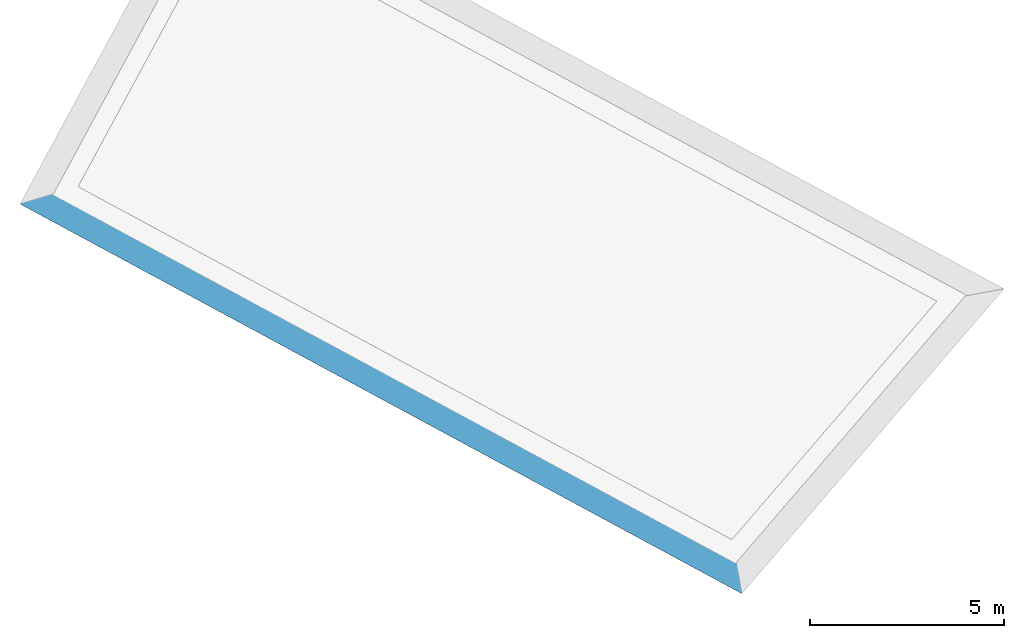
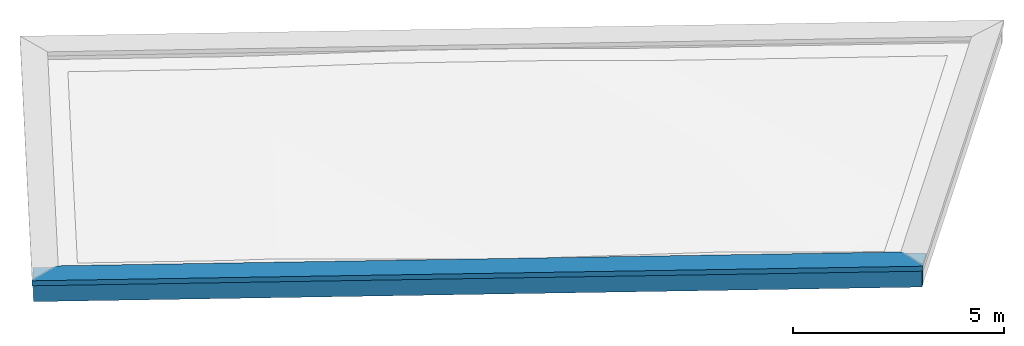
# One storey, part 1 of 5: 1 wall.
"""IFC2X3 building model written with IfcOpenShell, lengths in metres."""

from ifc_helpers import new_model, entity, si_unit, converted_unit, derived_unit, money_unit, direction, frame, origin_with_axes, place, context, subcontext, project, spatial, faceted_brep, material, material_list, type_object, element, save


model = new_model("IFC2X3")

# Units and contexts
model_context = context("Model", 3, precision=1e-05, world=origin_with_axes(), true_north=direction((0.0, 1.0)))
body_context = subcontext(model_context, "Body", "Model", "MODEL_VIEW")
ifc_project = project(units=[si_unit("LENGTHUNIT", "METRE"), si_unit("AREAUNIT", "SQUARE_METRE"), si_unit("VOLUMEUNIT", "CUBIC_METRE"), converted_unit("PLANEANGLEUNIT", "DEGREE", entity("IfcPlaneAngleMeasure", 0.0174532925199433), si_unit("PLANEANGLEUNIT", "RADIAN"), dimensions=[0, 0, 0, 0, 0, 0, 0]), money_unit("EUR"), converted_unit("TIMEUNIT", "Year", entity("IfcTimeMeasure", 31556926.0), si_unit("TIMEUNIT", "SECOND"), dimensions=[0, 0, 1, 0, 0, 0, 0]), si_unit("MASSUNIT", "GRAM", prefix="KILO"), si_unit("THERMODYNAMICTEMPERATUREUNIT", "DEGREE_CELSIUS"), si_unit("LUMINOUSINTENSITYUNIT", "LUMEN"), si_unit("ENERGYUNIT", "JOULE", prefix="MEGA"), derived_unit("THERMALCONDUCTANCEUNIT", [(si_unit("POWERUNIT", "WATT"), 1), (si_unit("LENGTHUNIT", "METRE"), -1), (si_unit("THERMODYNAMICTEMPERATUREUNIT", "KELVIN"), -1)]), derived_unit("SPECIFICHEATCAPACITYUNIT", [(si_unit("ENERGYUNIT", "JOULE"), 1), (si_unit("MASSUNIT", "GRAM", prefix="KILO"), -1), (si_unit("THERMODYNAMICTEMPERATUREUNIT", "KELVIN"), -1)]), derived_unit("MASSDENSITYUNIT", [(si_unit("MASSUNIT", "GRAM", prefix="KILO"), 1), (si_unit("VOLUMEUNIT", "CUBIC_METRE"), -1)])], contexts=[model_context])

# Site, building, storey
site_placement = place(None, frame((-3.949935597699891, 1.740105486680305, 0.0), z_axis=(0.0, 0.0, 1.0), x_axis=(0.8799804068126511, -0.475009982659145, 0.0)))
site = spatial("IfcSite", under=ifc_project, at=site_placement, Name="Gelände", CompositionType="ELEMENT")
building_placement = place(site_placement, origin_with_axes())
building = spatial("IfcBuilding", under=site, at=building_placement, Name="Gebäude", CompositionType="ELEMENT")
storey_placement = place(building_placement, frame((0.0, 0.0, 7.904999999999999), z_axis=(0.0, 0.0, 1.0), x_axis=(1.0, 0.0, 0.0)))
storey = spatial("IfcBuildingStorey", under=building, at=storey_placement, Name="Dachaufsicht", CompositionType="ELEMENT", Elevation=7.905)

# Wall
ifc_material_1 = material(Name="_SIWH - Dämmung, hart Mineralwolle")
ifc_material_2 = material(Name="_SIWH - Beton, Stahlbeton")
ifc_material_3 = material(Name="_SIWH - Holz, Bauholz")
ifc_material_4 = material(Name="_SIWH - Dämmung, weich Mineralwolle")
ifc_material_5 = material(Name="_SIWH - Luftschicht vertikal")
ifc_material_6 = material(Name="_SIWH - MW Vormauerziegel")
ifc_material_7 = material(Name="_SIWH - Metall, Aluminium")
ifc_material_list = material_list([ifc_material_1, ifc_material_2, ifc_material_3, ifc_material_4, ifc_material_5, ifc_material_6, ifc_material_7])
wall_type = type_object("IfcWallType", Name="_SIWH - Attika 1.OG 635 x 625", PredefinedType="NOTDEFINED")
wall_placement = place(storey_placement, frame((5.397480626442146, 1.424987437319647, -0.1909999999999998), z_axis=(0.0, 0.0, 1.0), x_axis=(1.0, 0.0, 0.0)))
element("IfcWall", 1, at=wall_placement, inside=storey, type_object=wall_type, material=ifc_material_list, Name="A-Wand032", context=body_context, shape_type="Brep", body=[
    faceted_brep([(-0.1800000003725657, -0.1799999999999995, 0.5599999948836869), (20.66357418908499, -0.1799999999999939, 0.5599999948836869), (20.75967390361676, 0.2600000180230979, 0.5599999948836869), (-0.1800000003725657, 0.2600000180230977, 0.5599999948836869), (20.66357418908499, -0.1799999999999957, 0.5014142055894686), (20.66357418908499, -0.1799999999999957, 0.5020656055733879), (-0.1800000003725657, -0.1799999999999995, 0.5020656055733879), (-0.1800000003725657, -0.1799999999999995, 0.5014142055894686), (-0.1800000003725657, -0.1799999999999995, 0.4999999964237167), (20.66357418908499, -0.1799999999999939, 0.4999999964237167), (20.75967390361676, 0.2600000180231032, 0.5020656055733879), (20.75967390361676, 0.2600000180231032, 0.5014142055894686), (20.75967390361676, 0.2600000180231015, 0.4999999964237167), (20.57543071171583, 0.2600000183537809, 0.4999999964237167), (20.37071604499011, 0.2600000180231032, 0.4999999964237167), (20.37071604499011, 0.2600000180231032, 0.4857034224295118), (20.37071604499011, 0.2600000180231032, 0.4848284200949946), (20.37071604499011, 0.2600000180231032, 0.4808750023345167), (20.37071604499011, 0.2600000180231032, 0.4799999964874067), (20.37071604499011, 0.260000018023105, 0.1399999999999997), (0.2000000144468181, 0.2600000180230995, 0.1399999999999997), (0.2000000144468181, 0.2600000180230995, 0.4799999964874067), (0.2000000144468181, 0.2600000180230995, 0.4808749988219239), (0.2000000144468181, 0.2600000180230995, 0.4848284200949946), (0.2000000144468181, 0.2600000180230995, 0.4857034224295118), (0.2000000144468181, 0.2600000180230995, 0.4999999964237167), (2.525876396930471e-09, 0.2600000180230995, 0.4999999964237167), (-0.1800000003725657, 0.2600000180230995, 0.4999999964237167), (-0.1800000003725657, 0.2600000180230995, 0.5014142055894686), (-0.1800000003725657, 0.2600000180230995, 0.5020656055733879), (-0.1800000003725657, 0.2000000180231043, 0.4999999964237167), (20.56232620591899, 0.2000000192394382, 0.4999999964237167), (20.74656939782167, 0.2000000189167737, 0.4999999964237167), (2.525876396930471e-09, 0.2000000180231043, 0.4999999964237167), (0.2000000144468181, 0.2000000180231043, 0.4999999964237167), (20.35761153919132, 0.2000000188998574, 0.4999999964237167), (20.35761153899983, 0.2000000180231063, 0.4857034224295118), (20.35761153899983, 0.2000000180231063, 0.4848284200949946), (20.35761153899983, 0.2000000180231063, 0.4808750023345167), (20.35761153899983, 0.2000000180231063, 0.4799999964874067), (20.35761153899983, 0.2000000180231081, 0.1399999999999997), (0.2000000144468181, 0.2000000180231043, 0.1399999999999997), (0.2000000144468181, 0.2000000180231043, 0.4799999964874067), (0.2000000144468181, 0.2000000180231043, 0.4808749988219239), (0.2000000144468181, 0.2000000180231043, 0.4848284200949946), (0.2000000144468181, 0.2000000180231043, 0.4857034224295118)], [[[0, 1, 2, 3]], [[4, 5, 1, 0, 6, 7, 8, 9]], [[5, 10, 2, 1]], [[3, 2, 10, 11, 12, 13, 14, 15, 16, 17, 18, 19, 20, 21, 22, 23, 24, 25, 26, 27, 28, 29]], [[6, 0, 3, 29]], [[11, 10, 5, 4]], [[7, 6, 29, 28]], [[27, 30, 8, 7, 28]], [[31, 32, 9, 8, 30, 33, 34, 35]], [[4, 9, 32, 12, 11]], [[13, 12, 32, 31]], [[35, 14, 13, 31]], [[36, 15, 14, 35]], [[16, 15, 36, 37]], [[17, 16, 37, 38]], [[18, 17, 38, 39]], [[19, 18, 39, 40]], [[20, 19, 40, 41]], [[21, 20, 41, 42]], [[22, 21, 42, 43]], [[43, 44, 23, 22]], [[44, 45, 24, 23]], [[34, 25, 24, 45]], [[33, 26, 25, 34]], [[27, 26, 33, 30]], [[41, 40, 39, 38, 37, 36, 35, 34, 45, 44, 43, 42]]]),
    faceted_brep([(9.76154268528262e-10, 2.525878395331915e-09, 0.4999999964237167), (20.51864451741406, 3.411650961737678e-09, 0.4999999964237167), (20.56232620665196, 0.2000000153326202, 0.4999999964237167), (9.76154268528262e-10, 0.2000000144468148, 0.4999999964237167), (20.5186445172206, 2.52588039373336e-09, 0.4848284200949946), (20.5186445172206, 2.52588039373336e-09, 0.4857034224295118), (9.76154268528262e-10, 2.525878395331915e-09, 0.4857034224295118), (9.76154268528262e-10, 2.525878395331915e-09, 0.4848284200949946), (9.76154268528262e-10, 2.525878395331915e-09, 0.4808749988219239), (9.76154268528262e-10, 2.525878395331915e-09, 0.4799999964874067), (9.76154268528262e-10, 2.525878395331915e-09, 0.1399999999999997), (9.76154268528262e-10, 2.525878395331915e-09, 0.0), (20.5186445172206, 2.525881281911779e-09, 0.0), (20.5186445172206, 2.52588039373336e-09, 0.1399999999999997), (20.5186445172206, 2.52588039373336e-09, 0.4799999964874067), (20.5186445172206, 2.52588039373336e-09, 0.4808750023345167), (20.56232620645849, 0.2000000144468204, 0.4857034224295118), (20.56232620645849, 0.2000000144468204, 0.4848284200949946), (20.56232620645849, 0.2000000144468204, 0.4808750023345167), (20.56232620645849, 0.2000000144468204, 0.4799999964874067), (20.56232620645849, 0.2000000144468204, 0.1399999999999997), (9.76154268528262e-10, 0.2000000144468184, 0.1399999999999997), (9.76154268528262e-10, 0.2000000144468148, 0.4799999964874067), (9.76154268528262e-10, 0.2000000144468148, 0.4808749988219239), (9.76154268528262e-10, 0.2000000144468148, 0.4848284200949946), (9.76154268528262e-10, 0.2000000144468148, 0.4857034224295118), (9.76154268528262e-10, 0.2000000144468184, 0.0), (20.56232620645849, 0.2000000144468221, 0.0)], [[[0, 1, 2, 3]], [[4, 5, 1, 0, 6, 7, 8, 9, 10, 11, 12, 13, 14, 15]], [[5, 16, 2, 1]], [[3, 2, 16, 17, 18, 19, 20, 21, 22, 23, 24, 25]], [[0, 3, 25, 6]], [[17, 16, 5, 4]], [[6, 25, 24, 7]], [[23, 8, 7, 24]], [[22, 9, 8, 23]], [[9, 22, 21, 10]], [[10, 21, 26, 11]], [[12, 11, 26, 27]], [[27, 20, 13, 12]], [[14, 13, 20, 19]], [[19, 18, 15, 14]], [[4, 15, 18, 17]], [[27, 26, 21, 20]]]),
    faceted_brep([(20.77227143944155, -0.3149999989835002, 0.5850000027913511), (20.89785629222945, 0.2600000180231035, 0.5850000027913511), (-0.3149999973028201, 0.2600000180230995, 0.5850000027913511), (-0.3149999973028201, -0.3149999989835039, 0.5850000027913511), (20.89785629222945, 0.2600000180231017, 0.5599999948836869), (20.77227143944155, -0.3149999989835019, 0.5599999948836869), (-0.3150000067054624, 0.2600000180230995, 0.5599999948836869), (-0.3150000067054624, -0.3149999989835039, 0.5599999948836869)], [[[0, 1, 2, 3]], [[4, 1, 0, 5]], [[1, 4, 6, 2]], [[3, 2, 6, 7]], [[5, 0, 3, 7]], [[4, 5, 7, 6]]]),
    faceted_brep([(20.66357418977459, -0.1799999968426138, 0.4999999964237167), (20.70288770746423, 1.869930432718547e-09, 0.4999999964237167), (-0.1800000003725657, 9.761562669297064e-10, 0.4999999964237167), (-0.1800000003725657, -0.1799999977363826, 0.4999999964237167), (20.70288770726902, 9.7616004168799e-10, 0.4857034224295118), (20.66357418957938, -0.1799999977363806, 0.4857034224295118), (20.70288770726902, 9.7616004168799e-10, 0.4848284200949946), (20.70288770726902, 9.7616004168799e-10, 0.4808750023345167), (20.70288770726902, 9.7616004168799e-10, 0.4799999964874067), (20.70288770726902, 9.7616004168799e-10, 0.1399999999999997), (20.70288770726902, 9.761582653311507e-10, 0.0), (-0.1800000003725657, 9.761562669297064e-10, 0.0), (-0.1800000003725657, 9.76154490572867e-10, 0.1399999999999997), (-0.1800000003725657, 9.76154490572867e-10, 0.4799999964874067), (-0.1800000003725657, 9.76154490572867e-10, 0.4808749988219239), (-0.1800000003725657, 9.76154490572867e-10, 0.4848284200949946), (-0.1800000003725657, 9.76154490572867e-10, 0.4857034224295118), (-0.1800000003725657, -0.1799999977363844, 0.4857034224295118), (-0.1800000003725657, -0.1799999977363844, 0.4848284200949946), (-0.1800000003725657, -0.1799999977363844, 0.4808749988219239), (-0.1800000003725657, -0.1799999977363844, 0.4799999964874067), (-0.1800000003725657, -0.1799999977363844, 0.1399999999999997), (-0.1800000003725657, -0.1799999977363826, 0.0), (20.66357418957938, -0.1799999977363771, 0.0), (20.66357418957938, -0.1799999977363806, 0.1399999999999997), (20.66357418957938, -0.1799999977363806, 0.4799999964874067), (20.66357418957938, -0.1799999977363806, 0.4808750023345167), (20.66357418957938, -0.1799999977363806, 0.4848284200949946)], [[[0, 1, 2, 3]], [[4, 1, 0, 5]], [[1, 4, 6, 7, 8, 9, 10, 11, 12, 13, 14, 15, 16, 2]], [[16, 17, 3, 2]], [[5, 0, 3, 17, 18, 19, 20, 21, 22, 23, 24, 25, 26, 27]], [[4, 5, 27, 6]], [[6, 27, 26, 7]], [[7, 26, 25, 8]], [[8, 25, 24, 9]], [[9, 24, 23, 10]], [[10, 23, 22, 11]], [[11, 22, 21, 12]], [[20, 13, 12, 21]], [[19, 14, 13, 20]], [[14, 19, 18, 15]], [[15, 18, 17, 16]]]),
    faceted_brep([(20.67967748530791, -0.2000000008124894, 0.5599999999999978), (20.68404565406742, -0.1800000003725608, 0.5599999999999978), (-0.1999999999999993, -0.1800000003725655, 0.5599999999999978), (-0.1999999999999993, -0.2000000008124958, 0.5599999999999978), (20.68404565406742, -0.1800000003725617, 0.5020656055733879), (20.67967748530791, -0.2000000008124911, 0.5020656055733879), (20.68404565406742, -0.1800000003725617, 0.5014142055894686), (20.68404565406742, -0.1800000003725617, 0.4999999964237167), (20.68404565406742, -0.1800000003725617, 0.4857034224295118), (20.68404565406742, -0.1800000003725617, 0.4848284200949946), (20.68404565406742, -0.1800000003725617, 0.4808750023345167), (20.68404565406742, -0.1800000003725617, 0.4799999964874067), (20.68404565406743, -0.1800000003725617, 0.1399999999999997), (20.68404565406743, -0.1800000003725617, 0.0), (-0.1999999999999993, -0.1800000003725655, 0.0), (-0.1999999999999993, -0.1800000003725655, 0.1399999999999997), (-0.1999999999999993, -0.1800000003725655, 0.4799999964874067), (-0.1999999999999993, -0.1800000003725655, 0.4808749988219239), (-0.1999999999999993, -0.1800000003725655, 0.4848284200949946), (-0.1999999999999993, -0.1800000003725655, 0.4857034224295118), (-0.1999999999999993, -0.1800000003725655, 0.4999999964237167), (-0.1999999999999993, -0.1800000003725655, 0.5014142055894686), (-0.1999999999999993, -0.1800000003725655, 0.5020656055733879), (-0.1999999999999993, -0.2000000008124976, 0.5020656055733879), (-0.1999999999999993, -0.2000000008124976, 0.5014142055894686), (-0.1999999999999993, -0.2000000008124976, 0.4999999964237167), (-0.1999999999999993, -0.2000000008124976, 0.4857034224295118), (-0.1999999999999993, -0.2000000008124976, 0.4848284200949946), (-0.1999999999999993, -0.2000000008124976, 0.4808749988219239), (-0.1999999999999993, -0.2000000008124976, 0.4799999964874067), (-0.1999999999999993, -0.2000000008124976, 0.1399999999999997), (-0.1999999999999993, -0.2000000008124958, 0.0), (20.67967748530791, -0.2000000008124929, 0.0), (20.67967748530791, -0.200000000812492, 0.1399999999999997), (20.67967748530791, -0.200000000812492, 0.4799999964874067), (20.67967748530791, -0.200000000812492, 0.4808750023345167), (20.67967748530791, -0.2000000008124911, 0.4848284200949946), (20.67967748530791, -0.200000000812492, 0.4857034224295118), (20.67967748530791, -0.2000000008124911, 0.4999999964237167), (20.67967748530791, -0.2000000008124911, 0.5014142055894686)], [[[0, 1, 2, 3]], [[4, 1, 0, 5]], [[1, 4, 6, 7, 8, 9, 10, 11, 12, 13, 14, 15, 16, 17, 18, 19, 20, 21, 22, 2]], [[3, 2, 22, 23]], [[5, 0, 3, 23, 24, 25, 26, 27, 28, 29, 30, 31, 32, 33, 34, 35, 36, 37, 38, 39]], [[4, 5, 39, 6]], [[6, 39, 38, 7]], [[7, 38, 37, 8]], [[8, 37, 36, 9]], [[9, 36, 35, 10]], [[10, 35, 34, 11]], [[11, 34, 33, 12]], [[12, 33, 32, 13]], [[13, 32, 31, 14]], [[30, 15, 14, 31]], [[29, 16, 15, 30]], [[28, 17, 16, 29]], [[27, 18, 17, 28]], [[26, 19, 18, 27]], [[25, 20, 19, 26]], [[24, 21, 20, 25]], [[23, 22, 21, 24]]]),
    faceted_brep([(20.7722714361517, -0.3149999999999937, 0.5599999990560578), (20.7973884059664, -0.1999999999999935, 0.5599999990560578), (-0.3150000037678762, -0.1999999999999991, 0.5599999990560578), (-0.3150000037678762, -0.3149999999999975, 0.5599999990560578), (20.7973884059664, -0.1999999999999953, 0.5020656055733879), (20.7722714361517, -0.3149999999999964, 0.5020656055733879), (20.7973884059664, -0.1999999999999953, 0.5014142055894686), (20.7973884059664, -0.1999999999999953, 0.4999999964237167), (20.7973884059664, -0.1999999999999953, 0.4857034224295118), (20.7973884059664, -0.1999999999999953, 0.4848284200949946), (20.7973884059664, -0.1999999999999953, 0.4808750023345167), (20.79738840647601, -0.1999999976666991, 0.4799999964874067), (20.79738841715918, -0.1999999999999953, 0.0), (-0.314999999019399, -0.1999999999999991, 0.0), (-0.3149999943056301, -0.1999999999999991, 0.4799999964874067), (-0.3149999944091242, -0.1999999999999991, 0.4808749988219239), (-0.314999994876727, -0.1999999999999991, 0.4848284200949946), (-0.3149999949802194, -0.1999999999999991, 0.4857034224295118), (-0.3149999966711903, -0.1999999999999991, 0.4999999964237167), (-0.3149999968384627, -0.1999999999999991, 0.5014142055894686), (-0.3149999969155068, -0.1999999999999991, 0.5020656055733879), (-0.3149999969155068, -0.3149999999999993, 0.5020656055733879), (-0.3149999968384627, -0.3149999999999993, 0.5014142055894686), (-0.3149999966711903, -0.3149999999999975, 0.4999999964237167), (-0.3149999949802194, -0.3149999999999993, 0.4857034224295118), (-0.314999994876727, -0.3149999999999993, 0.4848284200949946), (-0.3149999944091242, -0.3149999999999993, 0.4808749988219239), (-0.3149999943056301, -0.3149999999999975, 0.4799999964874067), (-0.314999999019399, -0.3149999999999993, 0.0), (20.77227144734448, -0.3149999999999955, 0.0), (20.77227143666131, -0.3149999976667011, 0.4799999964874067), (20.7722714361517, -0.3149999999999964, 0.4808750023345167), (20.7722714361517, -0.3149999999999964, 0.4848284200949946), (20.7722714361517, -0.3149999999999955, 0.4857034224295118), (20.7722714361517, -0.3149999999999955, 0.4999999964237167), (20.7722714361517, -0.3149999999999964, 0.5014142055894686)], [[[0, 1, 2, 3]], [[4, 1, 0, 5]], [[1, 4, 6, 7, 8, 9, 10, 11, 12, 13, 14, 15, 16, 17, 18, 19, 20, 2]], [[3, 2, 20, 21]], [[5, 0, 3, 21, 22, 23, 24, 25, 26, 27, 28, 29, 30, 31, 32, 33, 34, 35]], [[4, 5, 35, 6]], [[6, 35, 34, 7]], [[7, 34, 33, 8]], [[8, 33, 32, 9]], [[9, 32, 31, 10]], [[10, 31, 30, 11]], [[11, 30, 29, 12]], [[13, 12, 29, 28]], [[27, 14, 13, 28]], [[26, 15, 14, 27]], [[25, 16, 15, 26]], [[24, 17, 16, 25]], [[23, 18, 17, 24]], [[22, 19, 18, 23]], [[21, 20, 19, 22]]]),
    faceted_brep([(-0.3449999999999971, -0.340171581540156, 0.4848284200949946), (-0.3449999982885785, -0.3430000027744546, 0.4848284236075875), (-0.3430000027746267, -0.3430000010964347, 0.484828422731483), (-0.3430000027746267, -0.3401715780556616, 0.4848284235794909), (-0.3449999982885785, -0.3449999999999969, 0.4800000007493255), (-0.3449999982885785, -0.3449999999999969, 0.6249999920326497), (-0.3449999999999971, -0.2858221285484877, 0.6229287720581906), (-0.3449999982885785, -0.3430000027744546, 0.6229287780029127), (-0.3430000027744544, -0.3430000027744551, 0.6229287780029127), (20.79481605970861, -0.3430000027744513, 0.6229287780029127), (20.7968632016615, -0.3430000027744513, 0.6229287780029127), (20.7968632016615, -0.3430000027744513, 0.4848284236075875), (20.7948160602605, -0.3430000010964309, 0.484828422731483), (-0.3421250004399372, -0.3421250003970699, 0.4857034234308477), (-0.342125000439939, -0.3392965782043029, 0.4857034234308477), (-0.3278284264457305, -0.3250000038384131, 0.4999999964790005), (20.7832181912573, -0.3250000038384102, 0.4999999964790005), (20.79472928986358, -0.3392965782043, 0.4857034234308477), (20.79543381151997, -0.3401715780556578, 0.4848284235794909), (20.7974809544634, -0.340171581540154, 0.4848284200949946), (20.79642638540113, -0.3449999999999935, 0.4800000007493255), (20.79642638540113, -0.3449999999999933, 0.6249999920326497), (20.80935133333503, -0.2858221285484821, 0.6229287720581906), (20.80730413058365, -0.2858223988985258, 0.6229287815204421), (20.34367244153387, 0.2900000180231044, 0.6027749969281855), (0.232822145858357, 0.2900000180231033, 0.6027749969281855), (-0.3430000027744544, -0.2858223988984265, 0.6229287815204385), (0.2880000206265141, 0.2880000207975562, 0.6008437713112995), (20.28675702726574, 0.2880000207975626, 0.6008437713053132), (20.79411153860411, -0.3421250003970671, 0.4857034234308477), (20.78260043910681, -0.3278284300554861, 0.4999999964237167), (20.78146176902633, -0.3264142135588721, 0.5014142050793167), (-0.326414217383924, -0.326414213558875, 0.5014142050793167), (-0.3278284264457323, -0.3278284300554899, 0.4999999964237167), (20.28719384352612, 0.2900000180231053, 0.6008437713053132), (0.2860465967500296, 0.2900000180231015, 0.4848284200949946), (0.2851715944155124, 0.2900000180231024, 0.4857034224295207), (0.2880000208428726, 0.2900000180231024, 0.4857034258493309), (0.2880000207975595, 0.2900000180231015, 0.4999999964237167), (0.2880000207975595, 0.2900000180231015, 0.5014142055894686), (0.2880000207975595, 0.2900000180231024, 0.5020656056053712), (0.2880000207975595, 0.2900000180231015, 0.5599999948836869), (0.2880000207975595, 0.2900000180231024, 0.5850000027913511), (0.2880000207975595, 0.2900000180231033, 0.6008437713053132), (20.28719384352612, 0.2900000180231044, 0.5850000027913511), (20.28719384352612, 0.2900000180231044, 0.5599999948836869), (20.28719384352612, 0.2900000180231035, 0.5020656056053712), (20.28719384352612, 0.2900000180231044, 0.5014142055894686), (20.28719384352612, 0.2900000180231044, 0.4999999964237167), (20.28719384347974, 0.2900000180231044, 0.4857034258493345), (20.2900889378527, 0.2900000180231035, 0.4857034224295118), (20.2891933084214, 0.2900000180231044, 0.4848284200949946), (20.28514669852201, 0.2900000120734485, 0.4808750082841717), (0.2900000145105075, 0.2900000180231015, 0.4808750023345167), (0.2880000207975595, 0.2880000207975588, 0.4999999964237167), (0.288000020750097, 0.2880000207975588, 0.4857034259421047), (20.28675702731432, 0.2880000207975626, 0.4857034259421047), (20.28675702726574, 0.2880000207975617, 0.4999999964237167), (20.28675702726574, 0.2880000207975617, 0.5014142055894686), (20.28675702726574, 0.2880000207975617, 0.5020656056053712), (20.28675702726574, 0.2880000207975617, 0.5599999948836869), (20.28675702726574, 0.2880000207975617, 0.5850000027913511), (0.2880000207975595, 0.2880000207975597, 0.5850000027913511), (0.2880000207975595, 0.2880000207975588, 0.5599999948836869), (0.2880000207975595, 0.2880000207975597, 0.5020656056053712), (0.2880000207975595, 0.2880000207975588, 0.5014142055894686), (0.2851715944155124, 0.2851715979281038, 0.4857034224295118), (0.2851715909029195, 0.2880000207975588, 0.4857034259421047), (0.2860465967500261, 0.286046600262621, 0.4848284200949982), (20.28965212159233, 0.2880000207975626, 0.4857034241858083), (20.28903437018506, 0.285171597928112, 0.4857034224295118), (20.28832984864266, 0.2860466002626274, 0.4848284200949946), (0.270223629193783, 0.2702236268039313, 0.5006513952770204), (0.2708750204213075, 0.2708750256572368, 0.4999999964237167), (20.3005454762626, 0.2708750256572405, 0.4999999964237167), (20.3010699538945, 0.2702236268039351, 0.5006513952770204), (0.2702236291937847, 0.2730520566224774, 0.5006513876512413), (0.2709864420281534, 0.2722892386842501, 0.5014142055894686), (0.2716378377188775, 0.2716378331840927, 0.502065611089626), (20.29993128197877, 0.2716378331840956, 0.502065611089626), (20.30074030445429, 0.2722892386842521, 0.5014142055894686), (20.30168770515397, 0.2730520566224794, 0.5006513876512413), (20.30116322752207, 0.2737034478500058, 0.4999999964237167), (0.2708750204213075, 0.273703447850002, 0.4999999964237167), (0.2709864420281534, 0.2709864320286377, 0.5014142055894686), (20.30045576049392, 0.2709864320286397, 0.5014142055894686)], [[[0, 1, 2, 3]], [[1, 0, 4, 5, 6, 7]], [[2, 1, 7, 8, 9, 10, 11, 12]], [[2, 13, 14, 3]], [[4, 0, 3, 14, 15, 16, 17, 18, 19, 20]], [[5, 4, 20, 21]], [[6, 5, 21, 22, 23, 24, 25, 26]], [[8, 7, 6, 26]], [[8, 27, 28, 9]], [[10, 9, 23, 22]], [[20, 19, 11, 10, 22, 21]], [[18, 12, 11, 19]], [[13, 2, 12, 29, 30, 31, 32, 33]], [[14, 13, 33, 15]], [[15, 32, 31, 16]], [[16, 30, 29, 17]], [[12, 18, 17, 29]], [[28, 34, 24, 23, 9]], [[35, 36, 37, 38, 39, 40, 41, 42, 43, 25, 24, 34, 44, 45, 46, 47, 48, 49, 50, 51, 52, 53]], [[8, 26, 25, 43, 27]], [[54, 55, 56, 57, 58, 59, 60, 61, 28, 27, 62, 63, 64, 65]], [[30, 16, 31]], [[15, 33, 32]], [[28, 61, 44, 34]], [[66, 67, 36, 35, 68]], [[36, 67, 55, 37]], [[55, 54, 38, 37]], [[38, 54, 65, 39]], [[65, 64, 40, 39]], [[40, 64, 63, 41]], [[63, 62, 42, 41]], [[62, 27, 43, 42]], [[61, 60, 45, 44]], [[60, 59, 46, 45]], [[59, 58, 47, 46]], [[58, 57, 48, 47]], [[57, 56, 49, 48]], [[56, 69, 50, 49]], [[70, 71, 51, 50, 69]], [[71, 52, 51]], [[72, 73, 66, 68, 53, 52, 71, 70, 74, 75]], [[68, 35, 53]], [[76, 77, 78, 79, 80, 81, 82, 69, 56, 55, 67, 83]], [[73, 83, 67, 66]], [[70, 69, 82, 74]], [[83, 73, 72, 76]], [[74, 82, 81, 75]], [[84, 72, 75, 85, 79, 78]], [[77, 76, 72, 84]], [[77, 84, 78]], [[79, 85, 80]], [[75, 81, 80, 85]]]),
])

save(model, "model.ifc")
